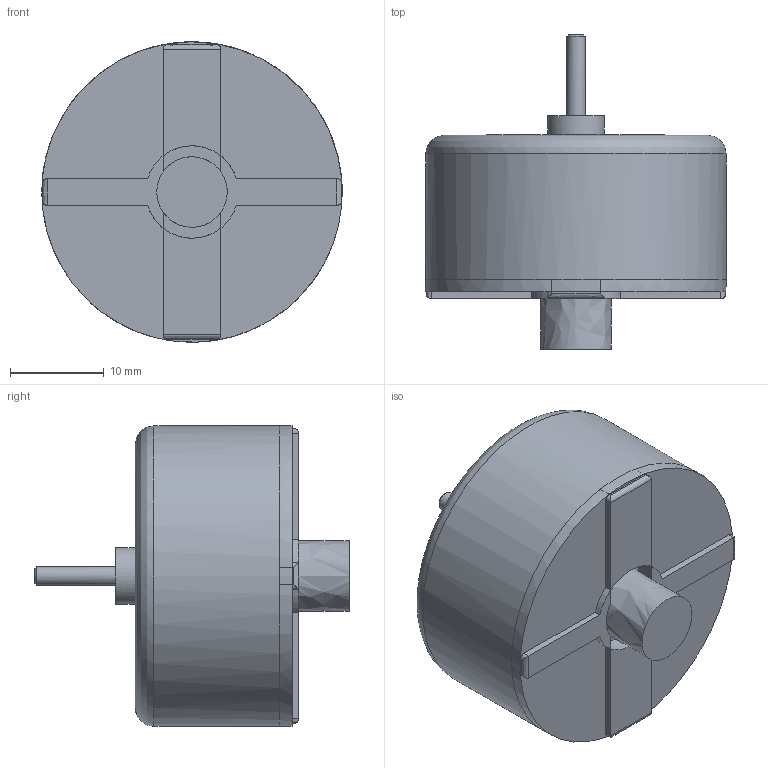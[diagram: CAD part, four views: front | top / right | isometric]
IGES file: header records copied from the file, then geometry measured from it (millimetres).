
Global section: file name: HITTING MECHANISM MOTOR v2; native system: unknown; preprocessor: unknown; author: unknown; organization: unknown; date: 20170227.212248; units: millimetre
Bounding box: 32 x 33.5 x 32 mm (x, y, z)
Volume: 13823.5 mm3; surface area: 4961.7 mm2
Topology: 2 solids, 2 shells, 82 faces, 199 edges, 126 vertices
Faces by surface type: bspline 82
